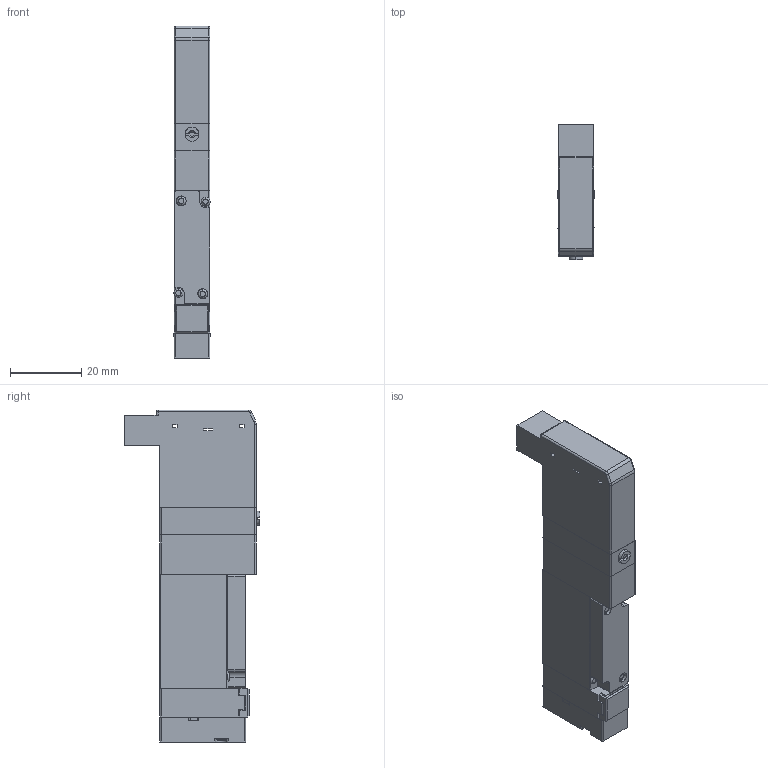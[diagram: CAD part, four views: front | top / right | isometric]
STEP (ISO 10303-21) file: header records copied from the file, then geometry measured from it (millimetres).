
FILE_DESCRIPTION( (''), '2;1');
FILE_NAME ('CVICAD02.13484.F10T1-A1_5705.stp','2020-09-01T14:09:48',(''),(''),'spGate 12.6.6','','');
FILE_SCHEMA (('AUTOMOTIVE_DESIGN'));
Length unit declared in the file: millimetre
Products named in the file (8): Assembly; F10_Adptor; F_3PortBody; F10_Cap; F10_SwitchBlock1; F_Connector-L; F10T_Body; F10_A1
Assembly tree (7 placements, depth 2):
  Assembly
    F10_Adptor
    F_3PortBody
    F10_Cap
    F10_SwitchBlock1
    F_Connector-L
    F10T_Body
    F10_A1
Bounding box: 10.2 x 38 x 93 mm (x, y, z)
Volume: 24226.1 mm3; surface area: 11126.5 mm2
Topology: 7 solids, 7 shells, 261 faces, 674 edges, 438 vertices
Faces by surface type: plane 162, cylinder 75, bspline 22, sphere 2
Entity records: 13852 total; most frequent: CARTESIAN_POINT 1842, ORIENTED_EDGE 1344, DIRECTION 1335, COLOUR_RGB 940, PRESENTATION_STYLE_ASSIGNMENT 940, STYLED_ITEM 940, EDGE_CURVE 672, DRAUGHTING_PRE_DEFINED_CURVE_FONT 672
